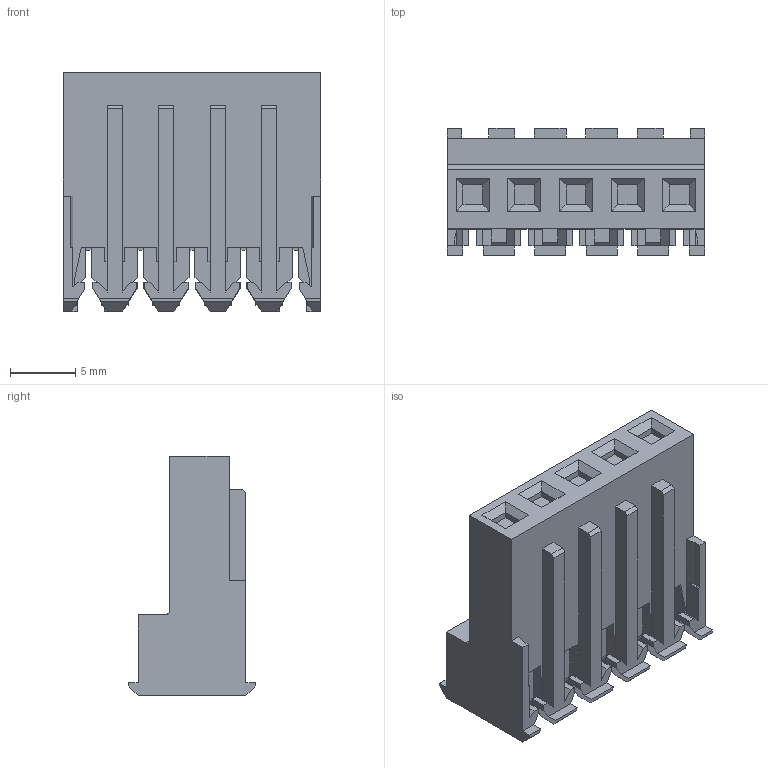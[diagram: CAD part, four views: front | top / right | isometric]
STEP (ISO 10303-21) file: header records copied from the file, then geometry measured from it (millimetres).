
FILE_DESCRIPTION((''),'2;1');
FILE_NAME('C-3-640606-5','2021-08-12T12:08:09',('workeradm'),('TE Connectivity Ltd.'),'CREO PARAMETRIC BY PTC INC, 2021072','CREO PARAMETRIC BY PTC INC, 2021072','');
FILE_SCHEMA(('AUTOMOTIVE_DESIGN { 1 0 10303 214 1 1 1 1 }'));
Length unit declared in the file: millimetre
Products named in the file (1): C-3-640606-5
Bounding box: 19.81 x 9.78 x 18.41 mm (x, y, z)
Volume: 1610.6 mm3; surface area: 2146.6 mm2
Topology: 1 solids, 1 shells, 531 faces, 1542 edges, 1014 vertices
Faces by surface type: plane 485, cylinder 46
Entity records: 17388 total; most frequent: CARTESIAN_POINT 3089, ORIENTED_EDGE 3084, DIRECTION 2696, EDGE_CURVE 1542, VECTOR 1450, LINE 1450, VERTEX_POINT 1014, AXIS2_PLACEMENT_3D 623
